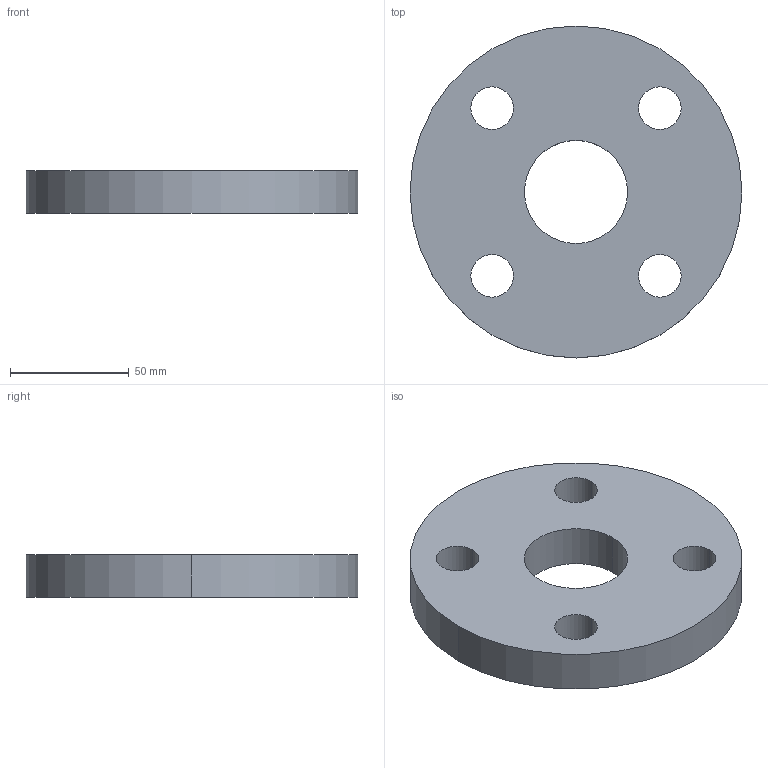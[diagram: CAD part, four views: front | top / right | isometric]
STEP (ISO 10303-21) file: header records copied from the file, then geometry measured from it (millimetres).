
FILE_DESCRIPTION (( 'STEP AP214' ), '1' );
FILE_NAME ('PN40 DN32 Type 01 - Type A Face.STEP', '2018-12-30T00:11:13', ( '' ), ( '' ), 'SwSTEP 2.0', 'SolidWorks 2019', '' );
FILE_SCHEMA (( 'AUTOMOTIVE_DESIGN' ));
Length unit declared in the file: millimetre
Products named in the file (1): PN40 DN32 Type 01 - Type A Face
Bounding box: 140 x 140 x 18 mm (x, y, z)
Volume: 232015.6 mm3; surface area: 40227.7 mm2
Topology: 1 solids, 1 shells, 14 faces, 36 edges, 24 vertices
Faces by surface type: cylinder 12, plane 2
Entity records: 498 total; most frequent: DIRECTION 90, CARTESIAN_POINT 75, ORIENTED_EDGE 72, AXIS2_PLACEMENT_3D 39, EDGE_CURVE 36, CIRCLE 24, EDGE_LOOP 24, VERTEX_POINT 24
